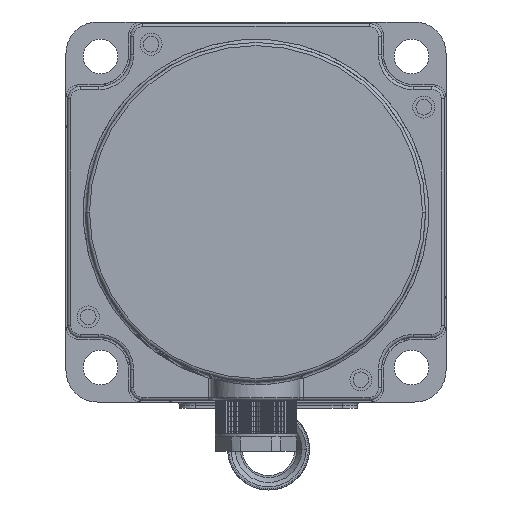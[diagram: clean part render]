
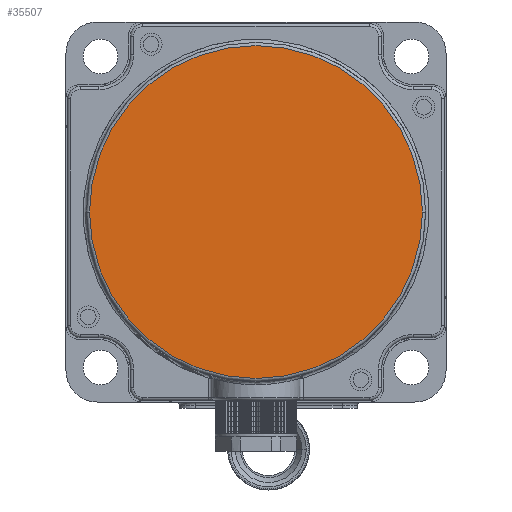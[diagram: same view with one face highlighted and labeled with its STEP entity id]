
A CAD part, front view. The second image highlights one B-rep face of the part: STEP entity #35507.
In plain terms, the highlighted planar face has unit normal (0, -1, 0).
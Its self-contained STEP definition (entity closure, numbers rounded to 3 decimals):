
#11008=CARTESIAN_POINT('',(30.25,-55.,-30.25));
#11009=DIRECTION('',(0.,-1.,0.));
#11010=DIRECTION('',(1.,0.,0.));
#11011=AXIS2_PLACEMENT_3D('',#11008,#11009,#11010);
#11028=CARTESIAN_POINT('',(30.25,-55.,-30.25));
#11029=DIRECTION('',(0.,-1.,0.));
#11030=DIRECTION('',(-1.,0.,0.));
#11031=AXIS2_PLACEMENT_3D('',#11028,#11029,#11030);
#16382=CARTESIAN_POINT('',(56.75,-55.,-30.25));
#16383=VERTEX_POINT('',#16382);
#16384=CARTESIAN_POINT('',(3.75,-55.,-30.25));
#16385=VERTEX_POINT('',#16384);
#35498=CARTESIAN_POINT('',(30.25,-55.,-30.25));
#35499=DIRECTION('',(0.,1.,0.));
#35500=DIRECTION('',(0.,0.,-1.));
#35501=AXIS2_PLACEMENT_3D('',#35498,#35499,#35500);
#35502=PLANE('',#35501);
#35503=ORIENTED_EDGE('',*,*,#34614,.F.);
#35504=ORIENTED_EDGE('',*,*,#34598,.F.);
#35505=EDGE_LOOP('',(#35503,#35504));
#35506=FACE_OUTER_BOUND('',#35505,.F.);
#11012=CIRCLE('',#11011,26.5);
#11032=CIRCLE('',#11031,26.5);
#34598=EDGE_CURVE('',#16383,#16385,#11012,.T.);
#34614=EDGE_CURVE('',#16385,#16383,#11032,.T.);
#35507=ADVANCED_FACE('',(#35506),#35502,.F.);
